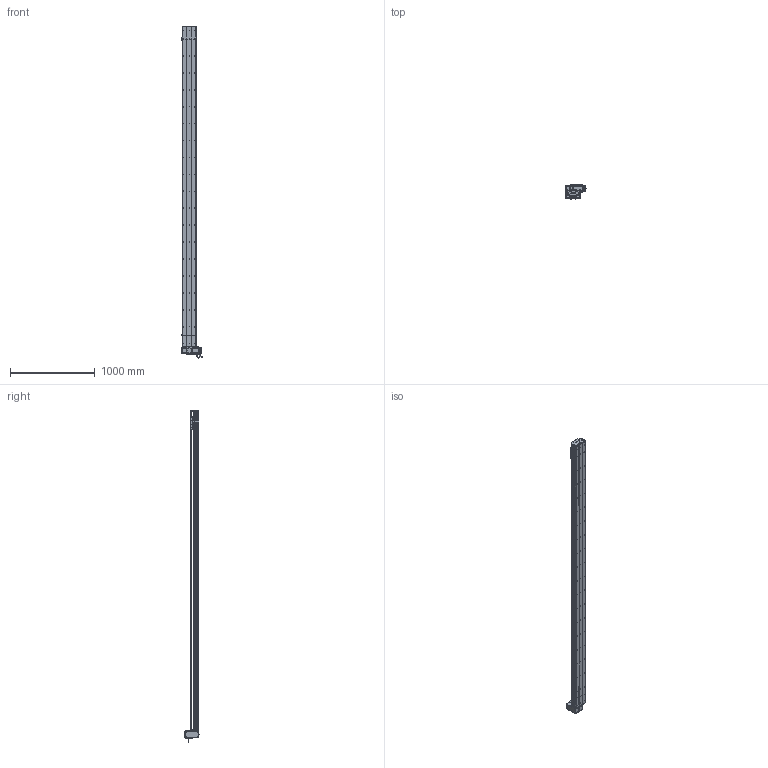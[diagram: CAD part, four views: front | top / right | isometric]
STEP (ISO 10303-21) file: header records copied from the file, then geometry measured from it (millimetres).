
FILE_DESCRIPTION (( 'STEP AP214' ), '1' );
FILE_NAME ('D17 TBH RT S3500.STEP', '2010-06-30T10:40:36', ( 'Christophe Gaillard' ), ( 'SGA' ), 'SwSTEP 2.0', 'SolidWorks 2010', '' );
FILE_SCHEMA (( 'AUTOMOTIVE_DESIGN' ));
Length unit declared in the file: millimetre
Products named in the file (40): Conecteur2_Default; D17 TBH RT S3500; vis M5 L12_Default; guide D17; Chariot D17; Conecteur_Default; corp tail D17B+100_Default; vis M5 L16_Default; Plaque racord D17_Default; Vis M5 L16-2_Default; vis M5 L70_Default; corpl head D17 _Default; Head RT D17B_Default; tete d''axe poulie D17B; Rail D17B; plaque de  bout tail D17B_Default; poulie head_Default; poulie tail_Default; Couroie tail D17B_Default; couvercle D17B_Default; chariot D17S_Default; vis M5 L8 90°_Default; cache arbre D17_Default; plaque de  bout head D17B RT_Default; Arbre+rail head D17B; vis M5 L25_Default; Tail D17B+100_Default; Renvoi RT_Default; couroie head D17_Default; Moteur motionking 90BLDC125A-640; avant 90BLDC125A-640; corps 90BLDC125A-640; codeur 90BLDC125-640; corp D17B 3500_Default; course 3500 D17B_Default; Couroie+ rail D17 Course 3500 ; couvercle D17B head_Default; cache D17_Default; vis M5 L5_Default; couvercle D17B course L3500_Default
Assembly tree (70 placements, depth 4):
  D17 TBH RT S3500
    Tail D17B+100_Default
      vis M5 L12_Default  x4
      couvercle D17B_Default
      vis M5 L25_Default  x2
      Rail D17B
      plaque de  bout tail D17B_Default
      corp tail D17B+100_Default
      vis M5 L8 90°_Default  x2
      poulie tail_Default
      tete d''axe poulie D17B
      Couroie tail D17B_Default
    course 3500 D17B_Default
      corp D17B 3500_Default
      Couroie+ rail D17 Course 3500 
      couvercle D17B course L3500_Default
    Head RT D17B_Default
      cache arbre D17_Default
      couvercle D17B head_Default
      Arbre+rail head D17B
      cache D17_Default  x2
      vis M5 L16_Default  x2
      Vis M5 L16-2_Default  x4
      plaque de  bout head D17B RT_Default
      vis M5 L12_Default  x8
      vis M5 L25_Default  x2
      Moteur motionking 90BLDC125A-640
        avant 90BLDC125A-640
        Conecteur2_Default
        corps 90BLDC125A-640
        Conecteur_Default
        codeur 90BLDC125-640
      vis M5 L70_Default  x4
      Plaque racord D17_Default
      vis M5 L5_Default  x4
      poulie head_Default
      couroie head D17_Default
      Renvoi RT_Default
      corpl head D17 _Default
    chariot D17S_Default
      guide D17  x2
      vis M5 L12_Default  x4
      Chariot D17
Bounding box: 245.2 x 166.15 x 3923.95 mm (x, y, z)
Volume: 22079863.6 mm3; surface area: 6465589.3 mm2
Topology: 94 solids, 94 shells, 2813 faces, 7235 edges, 4654 vertices
Faces by surface type: plane 1611, cylinder 889, bspline 136, cone 88, torus 85, sphere 4
Entity records: 89506 total; most frequent: CARTESIAN_POINT 26111, ORIENTED_EDGE 11242, DIRECTION 10630, EDGE_CURVE 5621, VERTEX_POINT 3678, LINE 3616, VECTOR 3616, AXIS2_PLACEMENT_3D 3507
